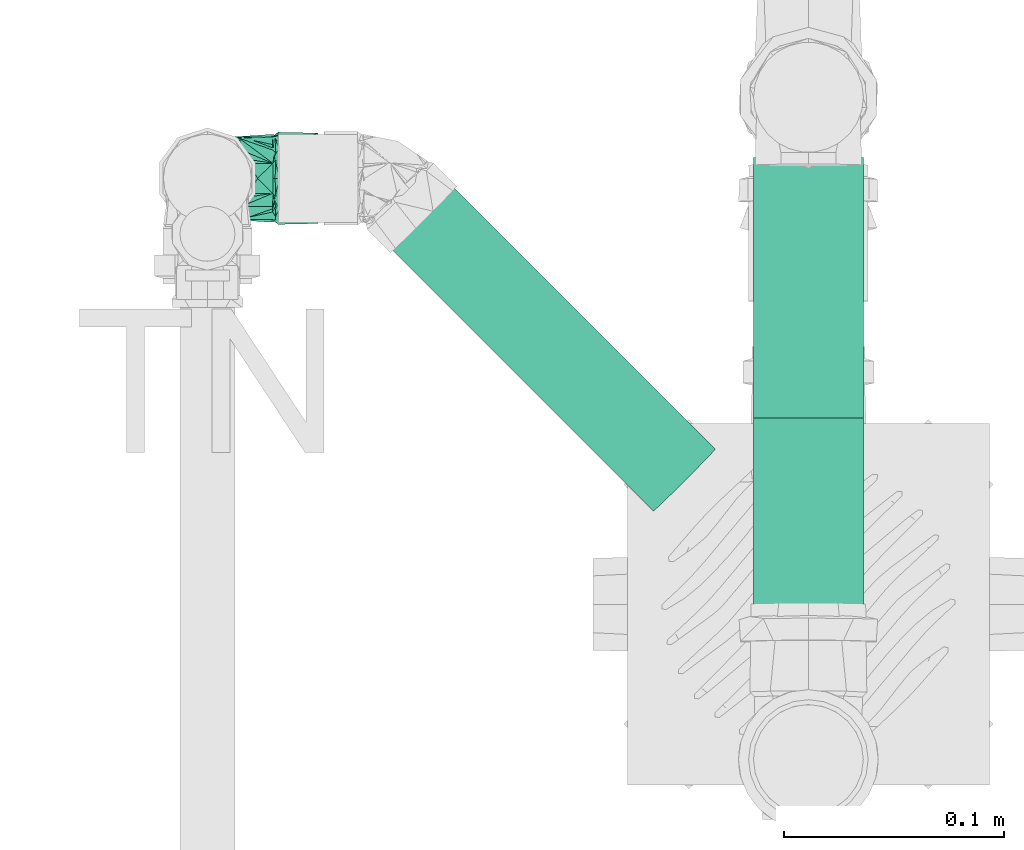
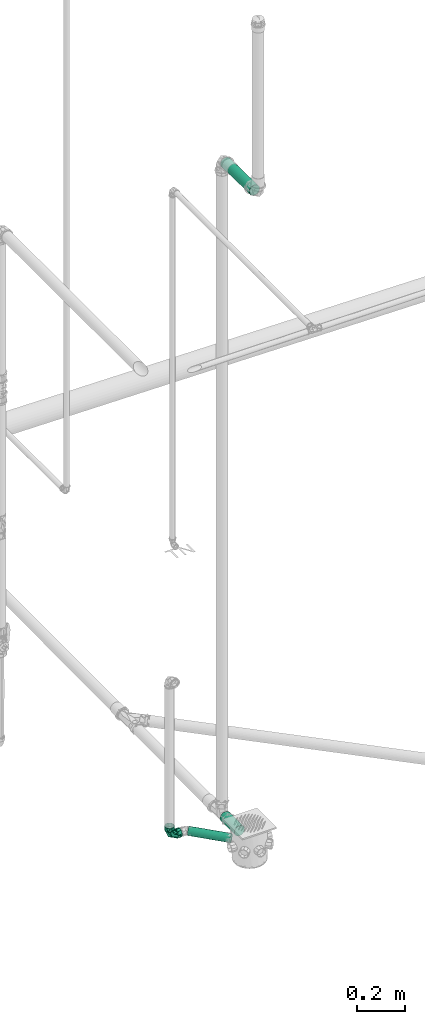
# One storey, part 217 of 589: 3 flow segments, 1 flow fitting.
"""IFC2X3 building model written with IfcOpenShell, lengths in millimetres."""

from ifc_helpers import new_model, entity, si_unit, converted_unit, derived_unit, direction, frame, frame_2d, origin, origin_2d_with_axis, place, context, subcontext, project, spatial, circle, extrude, faceted_brep, source, transform, mapped, material, type_object, type_shapes, element, save


model = new_model("IFC2X3")

# Units and contexts
model_context = context("Model", 3, precision=0.01, world=origin(), true_north=direction((6.123031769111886e-17, 1.0)))
body_context = subcontext(model_context, "Body", "Model", "MODEL_VIEW")
ifc_project = project(units=[si_unit("LENGTHUNIT", "METRE", prefix="MILLI"), si_unit("AREAUNIT", "SQUARE_METRE"), si_unit("VOLUMEUNIT", "CUBIC_METRE"), converted_unit("PLANEANGLEUNIT", "DEGREE", entity("IfcRatioMeasure", 0.017453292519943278), si_unit("PLANEANGLEUNIT", "RADIAN"), dimensions=[0, 0, 0, 0, 0, 0, 0]), si_unit("MASSUNIT", "GRAM", prefix="KILO"), derived_unit("MASSDENSITYUNIT", [(si_unit("MASSUNIT", "GRAM", prefix="KILO"), 1), (si_unit("LENGTHUNIT", "METRE"), -3)]), derived_unit("IONCONCENTRATIONUNIT", [(si_unit("MASSUNIT", "GRAM", prefix="KILO"), 1), (si_unit("LENGTHUNIT", "METRE"), -3)]), derived_unit("MOMENTOFINERTIAUNIT", [(si_unit("LENGTHUNIT", "METRE"), 4)]), si_unit("TIMEUNIT", "SECOND"), si_unit("FREQUENCYUNIT", "HERTZ"), si_unit("THERMODYNAMICTEMPERATUREUNIT", "DEGREE_CELSIUS"), derived_unit("THERMALTRANSMITTANCEUNIT", [(si_unit("MASSUNIT", "GRAM", prefix="KILO"), 1), (si_unit("THERMODYNAMICTEMPERATUREUNIT", "KELVIN"), -1), (si_unit("TIMEUNIT", "SECOND"), -3)]), derived_unit("THERMALCONDUCTANCEUNIT", [(si_unit("MASSUNIT", "GRAM", prefix="KILO"), 1), (si_unit("THERMODYNAMICTEMPERATUREUNIT", "KELVIN"), -1), (si_unit("TIMEUNIT", "SECOND"), -3), (si_unit("LENGTHUNIT", "METRE"), 1)]), derived_unit("VOLUMETRICFLOWRATEUNIT", [(si_unit("LENGTHUNIT", "METRE"), 3), (si_unit("TIMEUNIT", "SECOND"), -1)]), derived_unit("MASSFLOWRATEUNIT", [(si_unit("MASSUNIT", "GRAM", prefix="KILO"), 1), (si_unit("TIMEUNIT", "SECOND"), -1)]), derived_unit("ROTATIONALFREQUENCYUNIT", [(si_unit("TIMEUNIT", "SECOND"), -1)]), si_unit("ELECTRICCURRENTUNIT", "AMPERE"), si_unit("ELECTRICVOLTAGEUNIT", "VOLT"), si_unit("POWERUNIT", "WATT"), si_unit("FORCEUNIT", "NEWTON", prefix="KILO"), si_unit("ILLUMINANCEUNIT", "LUX"), si_unit("LUMINOUSFLUXUNIT", "LUMEN"), si_unit("LUMINOUSINTENSITYUNIT", "CANDELA"), derived_unit("USERDEFINED", [(si_unit("MASSUNIT", "GRAM", prefix="KILO"), -1), (si_unit("LENGTHUNIT", "METRE"), -2), (si_unit("TIMEUNIT", "SECOND"), 3), (si_unit("LUMINOUSFLUXUNIT", "LUMEN"), 1)]), derived_unit("USERDEFINED", [(si_unit("MASSUNIT", "GRAM", prefix="KILO"), 1), (si_unit("TIMEUNIT", "SECOND"), -3), (si_unit("LENGTHUNIT", "METRE"), 3), (si_unit("ELECTRICCURRENTUNIT", "AMPERE"), -2)]), derived_unit("SOUNDPOWERUNIT", [(si_unit("MASSUNIT", "GRAM", prefix="KILO"), 1), (si_unit("TIMEUNIT", "SECOND"), -3), (si_unit("LENGTHUNIT", "METRE"), 2)]), derived_unit("SOUNDPRESSUREUNIT", [(si_unit("MASSUNIT", "GRAM", prefix="KILO"), 1), (si_unit("LENGTHUNIT", "METRE"), -1), (si_unit("TIMEUNIT", "SECOND"), -2)]), derived_unit("LINEARVELOCITYUNIT", [(si_unit("LENGTHUNIT", "METRE"), 1), (si_unit("TIMEUNIT", "SECOND"), -1)]), si_unit("PRESSUREUNIT", "PASCAL"), derived_unit("USERDEFINED", [(si_unit("MASSUNIT", "GRAM", prefix="KILO"), 1), (si_unit("LENGTHUNIT", "METRE"), -2), (si_unit("TIMEUNIT", "SECOND"), -2)]), derived_unit("LINEARFORCEUNIT", [(si_unit("MASSUNIT", "GRAM", prefix="KILO"), 1), (si_unit("TIMEUNIT", "SECOND"), -2)]), derived_unit("PLANARFORCEUNIT", [(si_unit("MASSUNIT", "GRAM", prefix="KILO"), 1), (si_unit("LENGTHUNIT", "METRE"), -1), (si_unit("TIMEUNIT", "SECOND"), -2)]), derived_unit("SPECIFICHEATCAPACITYUNIT", [(si_unit("THERMODYNAMICTEMPERATUREUNIT", "KELVIN"), -1), (si_unit("LENGTHUNIT", "METRE"), 2), (si_unit("TIMEUNIT", "SECOND"), -2)]), derived_unit("HEATINGVALUEUNIT", [(si_unit("LENGTHUNIT", "METRE"), 2), (si_unit("TIMEUNIT", "SECOND"), -2)]), derived_unit("VAPORPERMEABILITYUNIT", [(si_unit("LENGTHUNIT", "METRE"), -1), (si_unit("TIMEUNIT", "SECOND"), 1)]), derived_unit("DYNAMICVISCOSITYUNIT", [(si_unit("MASSUNIT", "GRAM", prefix="KILO"), 1), (si_unit("TIMEUNIT", "SECOND"), -1), (si_unit("LENGTHUNIT", "METRE"), -1)]), derived_unit("THERMALEXPANSIONCOEFFICIENTUNIT", [(si_unit("THERMODYNAMICTEMPERATUREUNIT", "KELVIN"), -1)]), derived_unit("MODULUSOFELASTICITYUNIT", [(si_unit("MASSUNIT", "GRAM", prefix="KILO"), 1), (si_unit("LENGTHUNIT", "METRE"), -1), (si_unit("TIMEUNIT", "SECOND"), -2)]), derived_unit("ISOTHERMALMOISTURECAPACITYUNIT", [(si_unit("LENGTHUNIT", "METRE"), 3), (si_unit("MASSUNIT", "GRAM", prefix="KILO"), -1)]), derived_unit("MOISTUREDIFFUSIVITYUNIT", [(si_unit("TIMEUNIT", "SECOND"), -1), (si_unit("LENGTHUNIT", "METRE"), 2)])], contexts=[model_context])

# Site, building, storey
site_placement = place(None, origin())
site = spatial("IfcSite", under=ifc_project, at=site_placement, Name="Default", CompositionType="ELEMENT")
building_placement = place(site_placement, origin())
building = spatial("IfcBuilding", under=site, at=building_placement, CompositionType="ELEMENT")
storey_placement = place(building_placement, frame((0.0, 0.0, 100.0)))
storey = spatial("IfcBuildingStorey", under=building, at=storey_placement, Name="TÉRREO", CompositionType="ELEMENT", Elevation=100.0)

# Flow segments
pipe_segment_type = type_object("IfcPipeSegmentType", Name="Tipos de tubos:PVC Esgoto Série Normal", PredefinedType="NOTDEFINED")
flow_segment_1_placement = place(storey_placement, origin())
element("IfcFlowSegment", 1, at=flow_segment_1_placement, inside=storey, type_object=pipe_segment_type, Name="Tipos de tubos:PVC Esgoto Série Normal", ObjectType="Tipos de tubos:PVC Esgoto Série Normal", context=body_context, shape_type="SweptSolid", body=[
    extrude(circle(Radius=20.0, at=origin_2d_with_axis()), frame((11599.974006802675, -697.9518166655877, -304.14365548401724), z_axis=(-0.7069654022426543, 0.7069654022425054, 0.019996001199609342), x_axis=(0.7071067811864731, 0.707106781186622, 0.0)), (0.0, 0.0, 1.0), 182.7331138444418),
])
flow_segment_2_placement = place(storey_placement, origin())
element("IfcFlowSegment", 2, at=flow_segment_2_placement, inside=storey, type_object=pipe_segment_type, Name="Tipos de tubos:PVC Esgoto Série Normal", ObjectType="Tipos de tubos:PVC Esgoto Série Normal", context=body_context, shape_type="SweptSolid", body=[
    extrude(circle(Radius=25.0, at=frame_2d((0.0, -3.383959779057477e-14), x_axis=(1.0, 0.0))), frame((11656.471838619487, -669.6996484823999, -303.554889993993), z_axis=(0.0, 1.0, 0.0), x_axis=(1.0, 0.0, 0.0)), (0.0, 0.0, 1.0), 118.54991462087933),
])
flow_segment_3_placement = place(storey_placement, origin())
element("IfcFlowSegment", 3, at=flow_segment_3_placement, inside=storey, type_object=pipe_segment_type, Name="Tipos de tubos:PVC Esgoto Série Normal", ObjectType="Tipos de tubos:PVC Esgoto Série Normal", context=body_context, shape_type="SweptSolid", body=[
    extrude(circle(Radius=25.0, at=origin_2d_with_axis()), frame((11656.425175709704, -794.3794683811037, 3025.5419735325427), z_axis=(0.0, 0.9998000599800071, -0.01999600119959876), x_axis=(-1.0, 0.0, 0.0)), (0.0, 0.0, 1.0), 239.7974069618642),
])

# Flow fitting
ifc_material = material(Name="PVC Branco")
pipe_fitting_type = type_object("IfcPipeFittingType", Name="PVC Esgoto_Curva 90° Curta:a. Série Normal", PredefinedType="NOTDEFINED", material=ifc_material)
shared_shape = source(origin(), body_context, "Body", "Brep", [
    faceted_brep([(17.961036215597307, 31.85321923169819, 10.0), (20.63999240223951, 31.79964010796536, 0.0), (17.961036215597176, 31.853219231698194, -10.0), (5.819337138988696, 32.09605321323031, -19.318516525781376), (-4.531354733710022, 32.30306705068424, -19.31851652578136), (-16.67305381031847, 32.545901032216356, -10.0), (-19.352009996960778, 32.59948015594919, 0.0), (-16.673053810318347, 32.54590103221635, 10.0), (-4.531354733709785, 32.303067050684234, 19.318516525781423), (5.819337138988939, 32.096053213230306, 19.318516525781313), (19.378093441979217, 29.02431814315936, 6.84041311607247), (15.905813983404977, 29.093763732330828, 12.855768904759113), (20.584003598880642, 29.000199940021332, 0.0), (7.427001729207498, 29.263339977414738, 18.793865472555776), (0.5880023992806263, 29.40011996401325, 20.0), (-12.265223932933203, 29.657184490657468, 15.320851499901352), (-18.202100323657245, 29.775922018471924, 6.840381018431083), (-19.407998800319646, 29.800039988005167, 0.0), (-6.251109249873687, 29.536902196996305, 18.79382458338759), (-18.202100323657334, 29.775922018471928, -6.840381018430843), (-14.729853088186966, 29.70647707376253, -12.855716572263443), (-6.25110924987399, 29.53690219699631, -18.79382458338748), (0.588002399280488, 29.40011996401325, -20.0), (13.441163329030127, 29.143056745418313, -15.32090639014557), (19.378093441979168, 29.02431814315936, -6.8404131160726), (7.427001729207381, 29.263339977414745, -18.79386547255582), (-11.35075352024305, -12.626805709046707, 0.0), (-29.405999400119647, -18.793848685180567, 6.8404131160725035), (-29.405999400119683, -19.396924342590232, 3.420206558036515), (-29.405999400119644, -20.0, 0.0), (-29.40599940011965, -15.320874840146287, 12.855768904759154), (-29.405999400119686, -17.057361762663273, 9.848091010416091), (-2.3339581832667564, 2.3811033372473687, 18.02101843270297), (-29.40599940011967, -6.840366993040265, 18.793865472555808), (-29.405999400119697, -11.080620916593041, 15.824817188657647), (-29.405999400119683, 0.0, 20.0), (-29.40599940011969, -3.420183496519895, 19.396932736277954), (-12.878045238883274, 13.138181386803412, 18.95216884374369), (12.851249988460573, 11.095996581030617, 0.0), (5.594072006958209, -5.707072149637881, 0.0), (-29.405999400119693, 6.840479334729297, 18.79382458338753), (-29.405999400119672, 3.4202396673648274, 19.396912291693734), (-29.405999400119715, 18.793860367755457, 6.840381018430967), (-29.405999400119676, 15.824828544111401, 11.080616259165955), (-29.405999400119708, 12.855796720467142, 15.320851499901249), (-22.405985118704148, 22.858585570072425, 0.0), (-29.40599940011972, 20.0, 0.0), (-29.405999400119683, 19.396930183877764, 3.4201905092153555), (-29.405999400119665, 9.848138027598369, 17.0573380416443), (-14.138248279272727, 14.423838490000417, -18.24666465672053), (-29.405999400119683, 0.0, -20.0), (-29.40599940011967, 3.4202396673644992, -19.396912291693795), (-29.405999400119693, 6.840479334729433, -18.79382458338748), (-29.405999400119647, -18.79384868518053, -6.840413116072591), (-29.40599940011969, -15.824789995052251, -11.080659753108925), (-29.405999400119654, -12.85573130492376, -15.32090639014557), (-2.333957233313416, 2.3811024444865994, -18.021017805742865), (-29.405999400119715, 18.793860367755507, -6.840381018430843), (-29.405999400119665, 11.080699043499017, -15.824770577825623), (-29.405999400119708, 15.320918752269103, -12.855716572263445), (-29.405999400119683, -19.396924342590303, -3.420206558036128), (-29.405999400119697, -9.848049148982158, -17.0573859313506), (-29.40599940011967, -6.840366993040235, -18.79386547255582), (-29.40599940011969, -3.420183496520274, -19.396932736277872), (-29.405999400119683, 19.39693018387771, -3.4201905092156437), (-29.405999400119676, 17.05738956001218, -9.848048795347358), (-30.20599940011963, -8.21241269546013, -16.988887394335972), (-30.20599940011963, -11.248444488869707, -14.659258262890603), (-30.20599940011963, -14.28447628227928, -12.329629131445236), (-30.20599940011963, -17.320508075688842, -10.0), (-30.20599940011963, -18.66025403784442, -5.0), (-30.20599940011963, -20.0, 0.0), (-30.20599940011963, -18.660254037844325, 5.0), (-30.20599940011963, -17.320508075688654, 10.0), (-30.20599940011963, -14.284476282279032, 12.329629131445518), (-30.20599940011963, -11.248444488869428, 14.659258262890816), (-30.20599940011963, -8.21241269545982, 16.988887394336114), (-30.20599940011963, -5.1763809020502, 19.318516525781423), (-30.20599940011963, 0.0, 19.31851652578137), (-30.20599940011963, 5.176380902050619, 19.318516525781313), (-30.20599940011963, 8.21241269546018, 16.98888739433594), (-30.20599940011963, 11.248444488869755, 14.65925826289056), (-30.205999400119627, 14.284476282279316, 12.329629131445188), (-30.20599940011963, 17.320508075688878, 10.0), (-30.20599940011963, 18.66025403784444, 5.0), (-30.20599940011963, 20.0, 0.0), (-30.20599940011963, 18.66025403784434, -5.0), (-30.20599940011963, 17.32050807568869, -10.0), (-30.20599940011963, 14.284476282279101, -12.329629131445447), (-30.20599940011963, 11.24844448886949, -14.659258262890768), (-30.20599940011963, 8.212412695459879, -16.988887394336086), (-30.20599940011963, 5.1763809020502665, -19.318516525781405), (-30.20599940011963, 0.0, -19.318516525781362), (-30.20599940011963, -5.176380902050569, -19.318516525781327)], [[[0, 1, 2, 3, 4, 5, 6, 7, 8, 9]], [[10, 1, 0]], [[11, 0, 9]], [[12, 1, 10]], [[11, 10, 0]], [[13, 11, 9]], [[9, 14, 13]], [[15, 8, 7]], [[7, 6, 16]], [[17, 16, 6]], [[14, 8, 18]], [[15, 18, 8]], [[16, 15, 7]], [[8, 14, 9]], [[19, 6, 5]], [[20, 5, 4]], [[17, 6, 19]], [[20, 19, 5]], [[21, 20, 4]], [[4, 22, 21]], [[23, 3, 2]], [[2, 1, 24]], [[12, 24, 1]], [[22, 3, 25]], [[23, 25, 3]], [[24, 23, 2]], [[3, 22, 4]], [[26, 27, 28, 29]], [[26, 30, 31, 27]], [[32, 33, 34, 30]], [[32, 35, 36, 33]], [[35, 32, 37]], [[11, 38, 10]], [[26, 32, 30]], [[32, 39, 38]], [[37, 40, 41, 35]], [[37, 42, 43, 44]], [[45, 46, 47, 42]], [[16, 45, 42]], [[37, 44, 48, 40]], [[39, 32, 26]], [[14, 18, 37]], [[32, 11, 13]], [[14, 37, 32]], [[32, 38, 11]], [[12, 10, 38]], [[45, 16, 17]], [[37, 15, 16]], [[37, 16, 42]], [[15, 37, 18]], [[32, 13, 14]], [[49, 50, 51, 52]], [[49, 21, 22]], [[26, 53, 54, 55]], [[56, 39, 26]], [[49, 57, 19]], [[49, 52, 58, 59]], [[56, 50, 49]], [[26, 29, 60, 53]], [[56, 55, 61, 62]], [[56, 62, 63, 50]], [[26, 55, 56]], [[45, 57, 64, 46]], [[45, 17, 19]], [[24, 12, 38]], [[23, 56, 25]], [[49, 20, 21]], [[49, 19, 20]], [[56, 49, 22]], [[56, 23, 38]], [[49, 59, 65, 57]], [[38, 39, 56]], [[24, 38, 23]], [[56, 22, 25]], [[19, 57, 45]], [[66, 67, 68, 69, 70, 71, 72, 73, 74, 75, 76, 77, 78, 79, 80, 81, 82, 83, 84, 85, 86, 87, 88, 89, 90, 91, 92, 93]], [[47, 46, 85]], [[33, 77, 76]], [[80, 40, 48]], [[48, 44, 81]], [[33, 76, 34]], [[81, 80, 48]], [[84, 83, 42]], [[82, 81, 44]], [[73, 72, 27]], [[85, 84, 47]], [[78, 41, 79]], [[77, 36, 78]], [[30, 75, 74, 73]], [[73, 27, 31, 30]], [[77, 33, 36]], [[71, 28, 72]], [[44, 43, 82]], [[36, 35, 78]], [[41, 40, 79]], [[34, 76, 75]], [[43, 42, 83]], [[75, 30, 34]], [[41, 78, 35]], [[84, 42, 47]], [[80, 79, 40]], [[43, 83, 82]], [[28, 71, 29]], [[28, 27, 72]], [[60, 29, 71]], [[52, 91, 90]], [[66, 62, 61]], [[61, 55, 67]], [[52, 90, 58]], [[67, 66, 61]], [[70, 69, 53]], [[68, 67, 55]], [[87, 86, 57]], [[71, 70, 60]], [[92, 63, 93]], [[91, 51, 92]], [[59, 89, 88, 87]], [[87, 57, 65, 59]], [[91, 52, 51]], [[85, 64, 86]], [[55, 54, 68]], [[51, 50, 92]], [[63, 62, 93]], [[90, 89, 58]], [[54, 53, 69]], [[89, 59, 58]], [[63, 92, 50]], [[70, 53, 60]], [[66, 93, 62]], [[54, 69, 68]], [[64, 85, 46]], [[64, 57, 86]]]),
    faceted_brep([(-32.20599940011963, -17.320508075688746, -10.0), (-32.20599940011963, -20.0, 0.0), (-32.20599940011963, -17.320508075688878, 10.0), (-32.20599940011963, -5.176380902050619, 19.318516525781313), (-32.20599940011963, 5.1763809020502, 19.318516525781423), (-32.20599940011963, 17.320508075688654, 10.0), (-32.20599940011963, 20.0, 0.0), (-32.20599940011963, 17.320508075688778, -10.0), (-32.20599940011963, 5.17638090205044, -19.31851652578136), (-32.20599940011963, -5.176380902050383, -19.318516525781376), (-29.40599940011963, -20.0, 0.0), (-29.40599940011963, -15.320920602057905, 12.855714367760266), (-29.40599940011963, 3.4728419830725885, 19.696176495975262), (-29.40599940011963, 15.320777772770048, 12.855884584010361), (-29.40599940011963, 20.0, 0.0), (-29.40599940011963, 15.320777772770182, -12.855884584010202), (-29.405999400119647, 5.923858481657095, -16.27601124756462), (-29.40599940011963, -3.473060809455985, -19.69613791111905), (-29.40599940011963, -15.320920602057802, -12.855714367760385), (12.85124998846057, 11.095996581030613, 0.0), (19.378093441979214, 29.024318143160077, 6.8404131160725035), (16.409628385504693, 29.083687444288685, 11.080659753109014), (13.441163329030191, 29.143056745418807, 15.320906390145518), (5.594072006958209, -5.707072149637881, 0.0), (-3.0189256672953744, 1.4413580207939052, 17.919138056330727), (-11.350753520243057, -12.626805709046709, 0.0), (-13.807968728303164, 12.593198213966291, 18.87014454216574), (-6.251109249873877, 29.53690219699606, 18.793824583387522), (-10.490481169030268, 29.621689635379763, 15.824770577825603), (-14.729853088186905, 29.70647707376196, 12.855716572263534), (-22.405985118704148, 22.858585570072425, 0.0), (-18.20210032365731, 29.775922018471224, 6.84038101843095), (-18.805049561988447, 29.787981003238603, 3.4201905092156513), (-19.407998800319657, 29.80003998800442, 0.0), (7.427001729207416, 29.26333997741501, 18.793865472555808), (4.007502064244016, 29.331729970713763, 19.396932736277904), (0.5880023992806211, 29.400119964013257, 20.0), (10.434082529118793, 29.203198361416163, 17.057385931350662), (20.58400359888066, 29.000199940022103, 0.0), (19.981048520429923, 29.012259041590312, 3.420206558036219), (-2.8315534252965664, 29.46851108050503, 19.396912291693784), (-16.465976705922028, 29.74119954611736, 9.84804879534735), (-12.878069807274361, 13.13814230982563, -18.95217245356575), (-12.265223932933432, 29.657184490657, -15.32085149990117), (-9.258166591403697, 29.59704334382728, -17.057338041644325), (-6.251109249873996, 29.53690219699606, -18.79382458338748), (-18.202100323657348, 29.775922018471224, -6.840381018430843), (-2.142006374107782, 2.6554433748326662, -18.049846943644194), (-18.80504956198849, 29.787981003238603, -3.4201905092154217), (-15.233662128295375, 29.716553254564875, -11.080616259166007), (19.378093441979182, 29.02431814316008, -6.840413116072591), (19.981048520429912, 29.012259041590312, -3.4202065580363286), (0.5880023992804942, 29.400119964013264, -20.0), (4.0075020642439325, 29.331729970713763, -19.396932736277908), (7.427001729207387, 29.26333997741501, -18.79386547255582), (11.666407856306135, 29.178551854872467, -15.824817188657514), (15.905813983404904, 29.09376373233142, -12.855768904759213), (17.64195371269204, 29.05904093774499, -9.8480910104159), (-2.831553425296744, 29.46851108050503, -19.39691229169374), (-4.571346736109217, 30.303466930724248, -19.31851652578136), (-7.60677150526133, 30.364175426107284, -16.988887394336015), (-10.64219627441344, 30.424883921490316, -14.659258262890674), (-13.677621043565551, 30.48559241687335, -12.329629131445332), (-16.713045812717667, 30.54630091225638, -10.0), (-18.052523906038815, 30.573090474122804, -5.0), (-19.392001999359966, 30.599880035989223, 0.0), (-18.052523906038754, 30.573090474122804, 5.0), (-16.71304581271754, 30.54630091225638, 10.0), (-13.67762104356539, 30.48559241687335, 12.329629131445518), (-10.642196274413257, 30.424883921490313, 14.659258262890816), (-7.606771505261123, 30.364175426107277, 16.988887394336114), (-4.571346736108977, 30.303466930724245, 19.318516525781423), (0.6039992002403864, 30.199960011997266, 19.31851652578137), (5.779345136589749, 30.096453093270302, 19.318516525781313), (8.814769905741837, 30.035744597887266, 16.98888739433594), (11.85019467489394, 29.975036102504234, 14.65925826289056), (14.885619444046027, 29.9143276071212, 12.329629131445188), (17.92104421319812, 29.853619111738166, 10.0), (19.26052230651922, 29.82682954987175, 5.0), (20.60000039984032, 29.80003998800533, 0.0), (19.260522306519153, 29.82682954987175, -5.0), (17.921044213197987, 29.85361911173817, -10.0), (14.885619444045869, 29.914327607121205, -12.329629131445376), (11.850194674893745, 29.975036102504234, -14.659258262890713), (8.814769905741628, 30.03574459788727, -16.988887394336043), (5.779345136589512, 30.096453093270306, -19.318516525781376), (0.6039992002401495, 30.199960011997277, -19.31851652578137)], [[[0, 1, 2, 3, 4, 5, 6, 7, 8, 9]], [[10, 11, 2]], [[10, 2, 1]], [[2, 11, 3]], [[11, 12, 3]], [[4, 12, 13]], [[5, 13, 14]], [[13, 5, 4]], [[5, 14, 6]], [[12, 4, 3]], [[14, 15, 7]], [[14, 7, 6]], [[7, 15, 8]], [[8, 15, 16, 17]], [[9, 17, 18]], [[0, 18, 10]], [[18, 0, 9]], [[0, 10, 1]], [[17, 9, 8]], [[19, 20, 21, 22]], [[23, 24, 25]], [[26, 13, 12]], [[25, 24, 11]], [[24, 23, 19]], [[26, 27, 28, 29]], [[14, 13, 30]], [[11, 10, 25]], [[30, 31, 32, 33]], [[31, 30, 13]], [[24, 34, 35, 36]], [[24, 26, 12]], [[24, 22, 37, 34]], [[11, 24, 12]], [[19, 38, 39, 20]], [[26, 36, 40, 27]], [[13, 29, 41, 31]], [[13, 26, 29]], [[36, 26, 24]], [[22, 24, 19]], [[15, 14, 30]], [[42, 43, 44, 45]], [[15, 30, 46]], [[16, 15, 42, 17]], [[47, 25, 18]], [[47, 18, 17]], [[42, 15, 46]], [[30, 33, 48, 46]], [[42, 46, 49, 43]], [[19, 50, 51, 38]], [[47, 52, 53, 54]], [[47, 54, 55, 56]], [[42, 52, 47]], [[19, 56, 57, 50]], [[25, 47, 23]], [[19, 23, 47]], [[25, 10, 18]], [[19, 47, 56]], [[17, 42, 47]], [[42, 45, 58, 52]], [[59, 60, 61, 62, 63, 64, 65, 66, 67, 68, 69, 70, 71, 72, 73, 74, 75, 76, 77, 78, 79, 80, 81, 82, 83, 84, 85, 86]], [[39, 38, 79]], [[21, 77, 76]], [[74, 34, 37]], [[37, 22, 75]], [[79, 78, 39]], [[75, 74, 37]], [[74, 73, 34]], [[76, 75, 22]], [[22, 21, 76]], [[78, 77, 20]], [[72, 35, 73]], [[27, 70, 28]], [[29, 69, 68, 67]], [[67, 31, 41, 29]], [[71, 27, 40]], [[65, 32, 66]], [[71, 40, 72]], [[40, 36, 72]], [[67, 66, 31]], [[28, 70, 69]], [[35, 34, 73]], [[69, 29, 28]], [[35, 72, 36]], [[78, 20, 39]], [[21, 20, 77]], [[27, 71, 70]], [[32, 65, 33]], [[32, 31, 66]], [[48, 33, 65]], [[54, 85, 84]], [[60, 45, 44]], [[44, 43, 61]], [[54, 84, 55]], [[61, 60, 44]], [[64, 63, 46]], [[62, 61, 43]], [[81, 80, 50]], [[65, 64, 48]], [[86, 58, 59]], [[85, 53, 86]], [[56, 83, 82, 81]], [[81, 50, 57, 56]], [[85, 54, 53]], [[79, 51, 80]], [[43, 49, 62]], [[53, 52, 86]], [[58, 45, 59]], [[55, 84, 83]], [[49, 46, 63]], [[83, 56, 55]], [[58, 86, 52]], [[64, 46, 48]], [[60, 59, 45]], [[49, 63, 62]], [[51, 79, 38]], [[51, 50, 80]]]),
    faceted_brep([(5.819337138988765, 32.09605321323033, 19.31851652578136), (17.961036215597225, 31.853219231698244, 10.0), (20.63999240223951, 31.799640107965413, 0.0), (17.96103621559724, 31.853219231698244, -10.0), (5.8193371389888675, 32.09605321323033, -19.318516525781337), (-4.531354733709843, 32.30306705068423, -19.31851652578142), (-16.67305381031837, 32.54590103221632, -10.0), (-19.352009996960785, 32.59948015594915, 0.0), (-16.673053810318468, 32.54590103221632, 10.0), (-4.531354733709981, 32.303067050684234, 19.318516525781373), (-4.571346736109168, 30.303466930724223, 19.318516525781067), (-16.713045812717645, 30.54630091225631, 10.0), (-19.39200199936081, 30.599880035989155, 0.0), (-16.713045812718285, 30.546300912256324, -10.0), (-4.571346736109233, 30.303466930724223, -19.318516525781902), (5.779345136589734, 30.096453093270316, -19.31851652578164), (17.92104421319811, 29.853619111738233, -10.0), (20.60000039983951, 29.800039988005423, 0.0), (17.92104421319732, 29.853619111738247, 10.0), (5.779345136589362, 30.096453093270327, 19.31851652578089), (16.960145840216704, 31.873237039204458, -13.688192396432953), (21.93973248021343, 31.77364530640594, 0.0), (4.344880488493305, 32.12554234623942, -20.97588948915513), (-20.651750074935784, 32.625474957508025, 0.0), (-15.668729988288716, 32.52581455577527, -13.692285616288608), (-5.661924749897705, 32.32567845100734, -17.33408755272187), (-15.668729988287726, 32.52581455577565, 13.69228561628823), (-3.0516373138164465, 32.27347270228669, 20.976817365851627), (16.960145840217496, 31.87323703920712, 13.688192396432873), (6.954254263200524, 32.073354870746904, 17.332504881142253), (-4.507824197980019, 50.30619608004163, -20.574220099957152), (-4.171426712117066, 50.29946813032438, -19.318516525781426), (6.1792651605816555, 50.09245429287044, -19.318516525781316), (-17.438733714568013, 50.56481427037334, -10.649999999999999), (6.515662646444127, 50.0857263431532, -20.57422009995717), (-16.31312578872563, 50.54230211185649, -10.0), (-18.99208197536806, 50.59588123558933, 0.0), (-20.29182205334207, 50.62187603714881, 0.0), (-16.313125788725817, 50.54230211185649, 10.0), (-17.438733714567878, 50.56481427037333, 10.650000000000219), (-4.1714267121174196, 50.29946813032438, 19.318516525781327), (-4.5078241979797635, 50.30619608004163, 20.574220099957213), (6.179265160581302, 50.09245429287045, 19.3185165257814), (6.515662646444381, 50.08572634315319, 20.574220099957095), (18.320964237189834, 49.84962031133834, 10.0), (19.446572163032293, 49.827108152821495, 10.649999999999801), (22.299660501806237, 49.770046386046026, 0.0), (20.99992042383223, 49.796041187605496, 0.0), (19.44657216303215, 49.8271081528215, -10.650000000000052), (18.320964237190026, 49.84962031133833, -10.0)], [[[0, 1, 2, 3, 4, 5, 6, 7, 8, 9]], [[10, 11, 12, 13, 14, 15, 16, 17, 18, 19]], [[16, 15, 20]], [[17, 16, 21]], [[21, 16, 20]], [[15, 22, 20]], [[23, 13, 12]], [[24, 14, 13]], [[15, 14, 22]], [[23, 24, 13]], [[25, 22, 14, 24]], [[11, 10, 26]], [[12, 11, 23]], [[23, 11, 26]], [[10, 27, 26]], [[21, 18, 17]], [[28, 19, 18]], [[10, 19, 27]], [[21, 28, 18]], [[29, 27, 19, 28]], [[30, 31, 32]], [[31, 30, 33]], [[32, 34, 30]], [[33, 35, 31]], [[33, 36, 35]], [[36, 33, 37]], [[38, 36, 37]], [[38, 37, 39]], [[39, 40, 38]], [[39, 41, 40]], [[40, 41, 42]], [[43, 42, 41]], [[43, 44, 42]], [[44, 43, 45]], [[46, 44, 45]], [[47, 44, 46]], [[48, 47, 46]], [[48, 49, 47]], [[49, 48, 34]], [[34, 32, 49]], [[46, 45, 21]], [[45, 28, 21]], [[28, 45, 43]], [[43, 27, 29, 28]], [[26, 41, 39]], [[23, 39, 37]], [[41, 26, 27]], [[26, 39, 23]], [[41, 27, 43]], [[37, 33, 23]], [[33, 24, 23]], [[24, 33, 30]], [[30, 22, 25, 24]], [[20, 34, 48]], [[21, 48, 46]], [[34, 20, 22]], [[20, 48, 21]], [[34, 22, 30]], [[3, 2, 47, 49]], [[4, 3, 49, 32]], [[32, 31, 5, 4]], [[6, 5, 31, 35]], [[7, 6, 35, 36]], [[8, 7, 36, 38]], [[9, 8, 38, 40]], [[40, 42, 0, 9]], [[1, 0, 42, 44]], [[2, 1, 44, 47]]]),
    faceted_brep([(-50.20599940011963, -5.512845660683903, -20.574220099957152), (-50.20599940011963, -5.176380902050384, -19.318516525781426), (-50.20599940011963, 5.176380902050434, -19.318516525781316), (-50.20599940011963, -18.446341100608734, -10.649999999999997), (-50.20599940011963, 5.512845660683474, -20.57422009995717), (-50.20599940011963, -17.320508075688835, -10.0), (-50.20599940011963, -20.0, 0.0), (-50.20599940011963, -21.300000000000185, 0.0), (-50.20599940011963, -17.320508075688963, 10.0), (-50.20599940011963, -18.4463411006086, 10.650000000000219), (-50.20599940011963, -5.176380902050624, 19.318516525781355), (-50.20599940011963, -5.512845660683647, 20.574220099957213), (-50.20599940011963, 5.176380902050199, 19.318516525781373), (-50.20599940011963, 5.512845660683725, 20.574220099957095), (-50.20599940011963, 17.320508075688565, 10.0), (-50.20599940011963, 18.44634110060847, 10.649999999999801), (-50.20599940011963, 21.299999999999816, 0.0), (-50.20599940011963, 20.0, 0.0), (-50.20599940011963, 18.446341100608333, -10.650000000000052), (-50.20599940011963, 17.320508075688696, -10.0), (-32.20599940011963, 21.299999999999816, 0.0), (-32.205999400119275, 16.319417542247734, 13.688192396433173), (-32.205999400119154, 3.701629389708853, 20.975889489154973), (-32.20599940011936, -16.315983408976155, 13.692285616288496), (-32.20599940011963, -21.300000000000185, 0.0), (-32.20599940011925, -6.307177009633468, 17.334087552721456), (-32.20599940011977, -16.31598340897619, -13.692285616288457), (-32.20599940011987, -3.6963675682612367, -20.976817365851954), (-32.2059994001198, 16.319417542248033, -13.688192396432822), (-32.20599940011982, 6.311524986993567, -17.332504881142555), (-32.20599940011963, -5.176380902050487, 19.31851652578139), (-32.20599940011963, 5.176380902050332, 19.318516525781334), (-32.20599940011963, 17.320508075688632, 10.0), (-32.20599940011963, 20.0, 0.0), (-32.20599940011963, 17.320508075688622, -10.0), (-32.20599940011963, 5.176380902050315, -19.318516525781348), (-32.20599940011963, -5.1763809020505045, -19.318516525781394), (-32.20599940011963, -17.3205080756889, -10.0), (-32.20599940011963, -20.0, 0.0), (-32.20599940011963, -17.32050807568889, 10.0), (-30.20599940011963, -5.176380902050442, 19.31851652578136), (-30.20599940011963, -17.320508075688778, 10.0), (-30.20599940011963, -20.0, 0.0), (-30.20599940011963, -17.320508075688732, -10.0), (-30.20599940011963, -5.176380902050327, -19.318516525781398), (-30.20599940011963, 5.176380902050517, -19.318516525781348), (-30.20599940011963, 17.320508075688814, -10.0), (-30.20599940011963, 20.0, 0.0), (-30.20599940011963, 17.320508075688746, 10.0), (-30.20599940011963, 5.176380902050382, 19.318516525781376)], [[[0, 1, 2]], [[1, 0, 3]], [[2, 4, 0]], [[3, 5, 1]], [[3, 6, 5]], [[6, 3, 7]], [[8, 6, 7]], [[8, 7, 9]], [[9, 10, 8]], [[9, 11, 10]], [[10, 11, 12]], [[13, 12, 11]], [[13, 14, 12]], [[14, 13, 15]], [[16, 14, 15]], [[17, 14, 16]], [[18, 17, 16]], [[18, 19, 17]], [[19, 18, 4]], [[4, 2, 19]], [[16, 15, 20]], [[15, 21, 20]], [[21, 15, 13]], [[21, 13, 22]], [[23, 11, 9]], [[24, 9, 7]], [[11, 23, 25, 22]], [[23, 9, 24]], [[11, 22, 13]], [[7, 3, 24]], [[3, 26, 24]], [[26, 3, 0]], [[26, 0, 27]], [[28, 4, 18]], [[20, 18, 16]], [[4, 28, 29, 27]], [[28, 18, 20]], [[4, 27, 0]], [[30, 31, 32, 33, 34, 35, 36, 37, 38, 39]], [[40, 41, 42, 43, 44, 45, 46, 47, 48, 49]], [[45, 28, 46]], [[47, 46, 20]], [[20, 46, 28]], [[27, 45, 44]], [[26, 44, 43]], [[24, 43, 42]], [[45, 27, 29, 28]], [[26, 27, 44]], [[24, 26, 43]], [[40, 23, 41]], [[42, 41, 24]], [[24, 41, 23]], [[22, 40, 49]], [[21, 49, 48]], [[20, 48, 47]], [[40, 22, 25, 23]], [[21, 22, 49]], [[20, 21, 48]], [[34, 33, 17, 19]], [[35, 34, 19, 2]], [[2, 1, 36, 35]], [[37, 36, 1, 5]], [[38, 37, 5, 6]], [[39, 38, 6, 8]], [[30, 39, 8, 10]], [[10, 12, 31, 30]], [[32, 31, 12, 14]], [[33, 32, 14, 17]]]),
])
type_shapes(pipe_fitting_type, [shared_shape])
flow_fitting_placement = place(storey_placement, frame((11382.996050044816, -560.6382368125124, -298.6665534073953), z_axis=(0.0, -1.0, 0.0), x_axis=(0.0, 0.0, -1.0)))
element("IfcFlowFitting", 4, at=flow_fitting_placement, inside=storey, type_object=pipe_fitting_type, material=ifc_material, Name="PVC Esgoto_Curva 90° Curta:a. Série Normal", ObjectType="PVC Esgoto_Curva 90° Curta:a. Série Normal", context=body_context, shape_type="MappedRepresentation", body=[
    mapped(shared_shape, transform((0.0, 0.0, 0.0), scale=1.0)),
])

save(model, "model.ifc")
